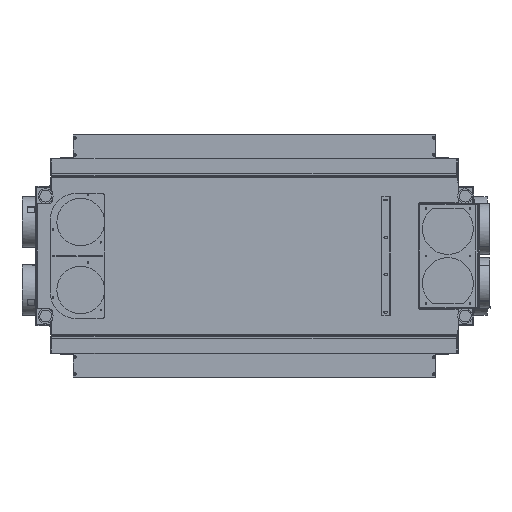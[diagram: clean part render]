
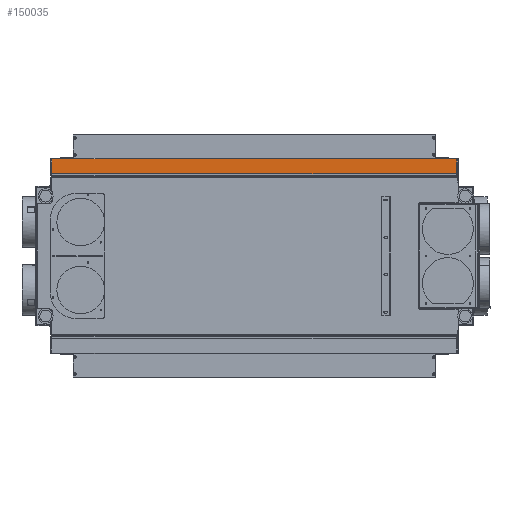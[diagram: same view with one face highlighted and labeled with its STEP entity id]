
A CAD part, front view. The second image highlights one B-rep face of the part: STEP entity #150035.
In plain terms, the highlighted planar face has unit normal (0, -1, 0).
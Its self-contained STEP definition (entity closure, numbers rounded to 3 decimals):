
#4714 = CARTESIAN_POINT ( 'NONE',  ( 596., -43., 286. ) ) ;
#4836 = CARTESIAN_POINT ( 'NONE',  ( 596., -43., 236. ) ) ;
#9431 = VECTOR ( 'NONE', #59679, 1000. ) ;
#10302 = VERTEX_POINT ( 'NONE', #4836 ) ;
#11439 = ORIENTED_EDGE ( 'NONE', *, *, #70621, .T. ) ;
#23198 = LINE ( 'NONE', #142167, #91311 ) ;
#38081 = ORIENTED_EDGE ( 'NONE', *, *, #134453, .T. ) ;
#50749 = PLANE ( 'NONE',  #51047 ) ;
#51047 = AXIS2_PLACEMENT_3D ( 'NONE', #144817, #145383, #63923 ) ;
#53582 = LINE ( 'NONE', #174873, #144946 ) ;
#59679 = DIRECTION ( 'NONE',  ( 1., 0., 0. ) ) ;
#59700 = EDGE_CURVE ( 'NONE', #75008, #10302, #88645, .T. ) ;
#63923 = DIRECTION ( 'NONE',  ( 1., 0., 0. ) ) ;
#70621 = EDGE_CURVE ( 'NONE', #92537, #75008, #53582, .T. ) ;
#75008 = VERTEX_POINT ( 'NONE', #80051 ) ;
#75903 = VECTOR ( 'NONE', #104219, 1000. ) ;
#80051 = CARTESIAN_POINT ( 'NONE',  ( -596., -43., 236. ) ) ;
#87052 = ORIENTED_EDGE ( 'NONE', *, *, #169726, .F. ) ;
#88645 = LINE ( 'NONE', #158398, #75903 ) ;
#88928 = VERTEX_POINT ( 'NONE', #173894 ) ;
#91311 = VECTOR ( 'NONE', #157022, 1000. ) ;
#92537 = VERTEX_POINT ( 'NONE', #171879 ) ;
#104219 = DIRECTION ( 'NONE',  ( 1., 0., 0. ) ) ;
#112576 = EDGE_LOOP ( 'NONE', ( #87052, #11439, #168592, #38081 ) ) ;
#128402 = FACE_OUTER_BOUND ( 'NONE', #112576, .T. ) ;
#134453 = EDGE_CURVE ( 'NONE', #10302, #88928, #23198, .T. ) ;
#142167 = CARTESIAN_POINT ( 'NONE',  ( 596., -43., 236. ) ) ;
#144817 = CARTESIAN_POINT ( 'NONE',  ( 596., -43., 236. ) ) ;
#144946 = VECTOR ( 'NONE', #159389, 1000. ) ;
#145383 = DIRECTION ( 'NONE',  ( 0., 1., 0. ) ) ;
#150035 = ADVANCED_FACE ( 'NONE', ( #128402 ), #50749, .F. ) ;
#157022 = DIRECTION ( 'NONE',  ( 0., 0., 1. ) ) ;
#158398 = CARTESIAN_POINT ( 'NONE',  ( 596., -43., 236. ) ) ;
#159389 = DIRECTION ( 'NONE',  ( 0., 0., -1. ) ) ;
#165058 = LINE ( 'NONE', #4714, #9431 ) ;
#168592 = ORIENTED_EDGE ( 'NONE', *, *, #59700, .T. ) ;
#169726 = EDGE_CURVE ( 'NONE', #92537, #88928, #165058, .T. ) ;
#171879 = CARTESIAN_POINT ( 'NONE',  ( -596., -43., 286. ) ) ;
#173894 = CARTESIAN_POINT ( 'NONE',  ( 596., -43., 286. ) ) ;
#174873 = CARTESIAN_POINT ( 'NONE',  ( -596., -43., 236. ) ) ;
